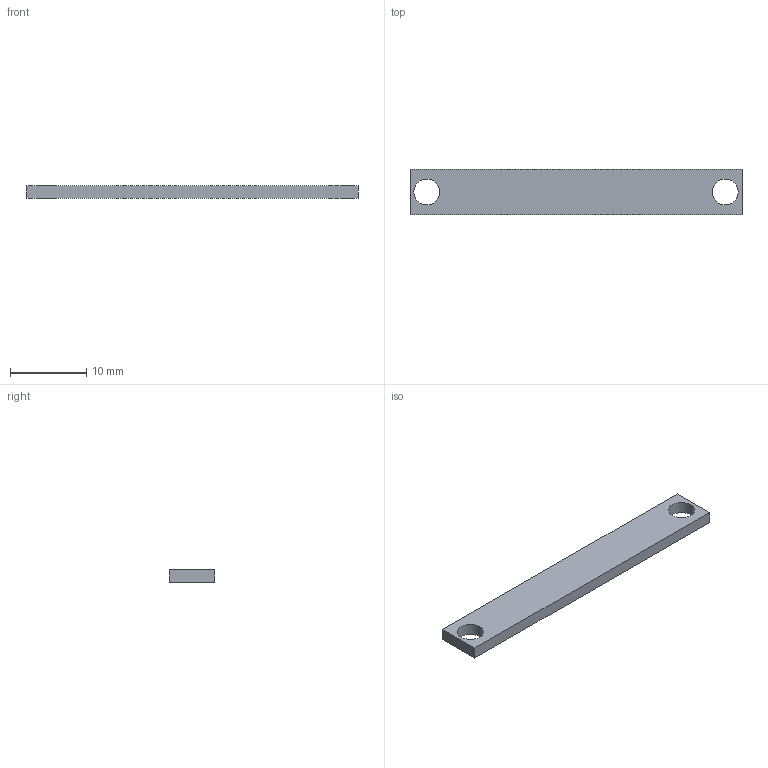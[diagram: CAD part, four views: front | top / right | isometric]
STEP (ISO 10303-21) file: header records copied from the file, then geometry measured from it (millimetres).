
FILE_DESCRIPTION(('FreeCAD Model'),'2;1');
FILE_NAME('Open CASCADE Shape Model','2026-11-20T08:25:38',('FreeCAD'),( 'FreeCAD'),'Open CASCADE STEP processor 7.8','FreeCAD','Unknown');
FILE_SCHEMA(('AUTOMOTIVE_DESIGN { 1 0 10303 214 1 1 1 1 }'));
Length unit declared in the file: millimetre
Products named in the file (1): Open CASCADE STEP translator 7.8 72
Bounding box: 43.6 x 6 x 1.6 mm (x, y, z)
Volume: 389.5 mm3; surface area: 679.8 mm2
Topology: 1 solids, 1 shells, 8 faces, 18 edges, 12 vertices
Faces by surface type: plane 6, cylinder 2
Full cylindrical faces by diameter (mm): 3.4 x2
Entity records: 244 total; most frequent: DIRECTION 40, CARTESIAN_POINT 39, ORIENTED_EDGE 36, EDGE_CURVE 18, LINE 14, VECTOR 14, AXIS2_PLACEMENT_3D 13, FACE_BOUND 12
